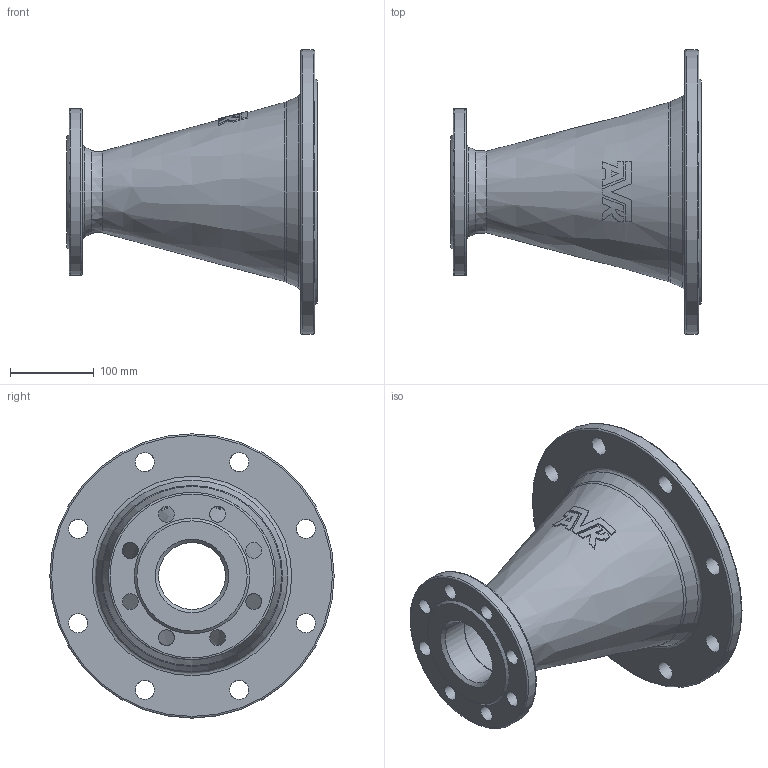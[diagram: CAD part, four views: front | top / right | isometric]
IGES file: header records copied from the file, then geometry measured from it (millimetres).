
Start section: SolidWorks IGES file using analytic representation for surfaces
Global section: file name: \\avksan2\techshare\PBM outline export from Enovia\O_712_2210_DN200_DN80_0X_REV01.igs; native system: SolidWorks 2022; preprocessor: SolidWorks 2022; author: pbm; date: 240807.140554; units: millimetre
Bounding box: 300 x 340 x 340 mm (x, y, z)
Surface area: 456592.1 mm2 (no closed solid volume)
Topology: 0 solids, 0 shells, 85 faces, 416 edges, 370 vertices
Faces by surface type: revolution 44, bspline 41
